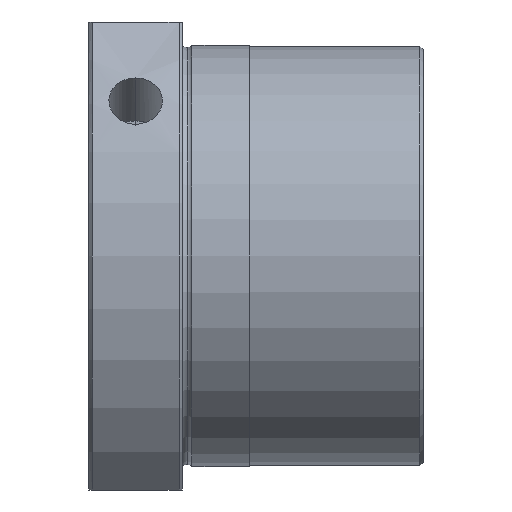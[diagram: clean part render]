
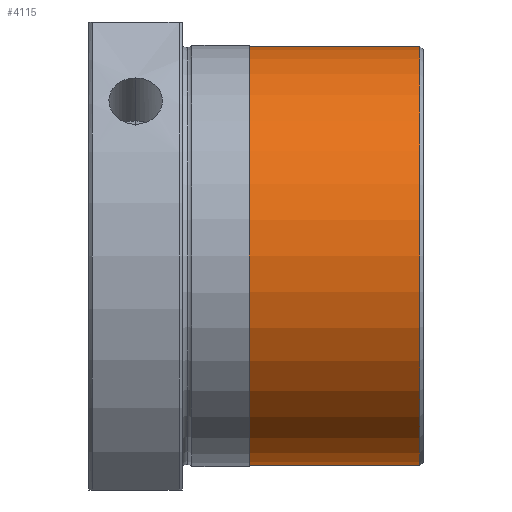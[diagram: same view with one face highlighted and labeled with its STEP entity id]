
A CAD part, front view. The second image highlights one B-rep face of the part: STEP entity #4115.
In plain terms, the highlighted cylindrical face has radius 31.35 mm (diameter 62.7 mm), a partial arc.
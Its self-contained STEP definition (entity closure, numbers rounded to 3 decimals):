
#100 = DIRECTION ( 'NONE',  ( -1., 0., 0. ) ) ;
#203 = EDGE_CURVE ( 'NONE', #329, #4709, #5846, .T. ) ;
#329 = VERTEX_POINT ( 'NONE', #2141 ) ;
#349 = CIRCLE ( 'NONE', #2721, 31.35 ) ;
#571 = DIRECTION ( 'NONE',  ( -1., 0., 0. ) ) ;
#669 = VECTOR ( 'NONE', #834, 1000. ) ;
#834 = DIRECTION ( 'NONE',  ( -1., 0., 0. ) ) ;
#882 = DIRECTION ( 'NONE',  ( 0., 0., 1. ) ) ;
#892 = EDGE_CURVE ( 'NONE', #3950, #329, #2261, .T. ) ;
#904 = EDGE_LOOP ( 'NONE', ( #5859, #1985, #6305, #5513 ) ) ;
#985 = CARTESIAN_POINT ( 'NONE',  ( -79.04, 0., -31.35 ) ) ;
#1078 = LINE ( 'NONE', #985, #669 ) ;
#1106 = CARTESIAN_POINT ( 'NONE',  ( 28., 0., -31.35 ) ) ;
#1169 = CYLINDRICAL_SURFACE ( 'NONE', #1175, 31.35 ) ;
#1175 = AXIS2_PLACEMENT_3D ( 'NONE', #5560, #100, #3655 ) ;
#1250 = EDGE_CURVE ( 'NONE', #3950, #4623, #1078, .T. ) ;
#1443 = EDGE_CURVE ( 'NONE', #4623, #4709, #349, .T. ) ;
#1548 = CARTESIAN_POINT ( 'NONE',  ( 2.5, 0., -31.35 ) ) ;
#1821 = CARTESIAN_POINT ( 'NONE',  ( 2.5, 0., 31.35 ) ) ;
#1985 = ORIENTED_EDGE ( 'NONE', *, *, #892, .T. ) ;
#2141 = CARTESIAN_POINT ( 'NONE',  ( 28., 0., 31.35 ) ) ;
#2169 = AXIS2_PLACEMENT_3D ( 'NONE', #3201, #4369, #882 ) ;
#2261 = CIRCLE ( 'NONE', #2169, 31.35 ) ;
#2721 = AXIS2_PLACEMENT_3D ( 'NONE', #3584, #571, #4076 ) ;
#3201 = CARTESIAN_POINT ( 'NONE',  ( 28., 0., 0. ) ) ;
#3584 = CARTESIAN_POINT ( 'NONE',  ( 2.5, 0., 0. ) ) ;
#3655 = DIRECTION ( 'NONE',  ( 0., 0., 1. ) ) ;
#3681 = FACE_OUTER_BOUND ( 'NONE', #904, .T. ) ;
#3950 = VERTEX_POINT ( 'NONE', #1106 ) ;
#4076 = DIRECTION ( 'NONE',  ( 0., 0., 1. ) ) ;
#4115 = ADVANCED_FACE ( 'NONE', ( #3681 ), #1169, .T. ) ;
#4369 = DIRECTION ( 'NONE',  ( -1., 0., 0. ) ) ;
#4623 = VERTEX_POINT ( 'NONE', #1548 ) ;
#4709 = VERTEX_POINT ( 'NONE', #1821 ) ;
#5513 = ORIENTED_EDGE ( 'NONE', *, *, #1443, .F. ) ;
#5560 = CARTESIAN_POINT ( 'NONE',  ( -79.04, 0., 0. ) ) ;
#5846 = LINE ( 'NONE', #6425, #6325 ) ;
#5848 = DIRECTION ( 'NONE',  ( -1., 0., 0. ) ) ;
#5859 = ORIENTED_EDGE ( 'NONE', *, *, #1250, .F. ) ;
#6305 = ORIENTED_EDGE ( 'NONE', *, *, #203, .T. ) ;
#6325 = VECTOR ( 'NONE', #5848, 1000. ) ;
#6425 = CARTESIAN_POINT ( 'NONE',  ( -79.04, 0., 31.35 ) ) ;
